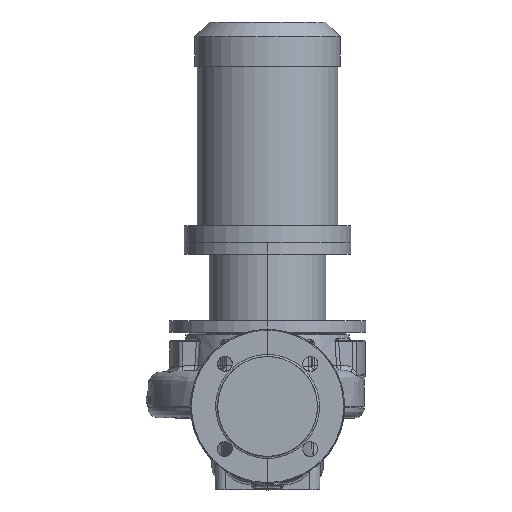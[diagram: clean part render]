
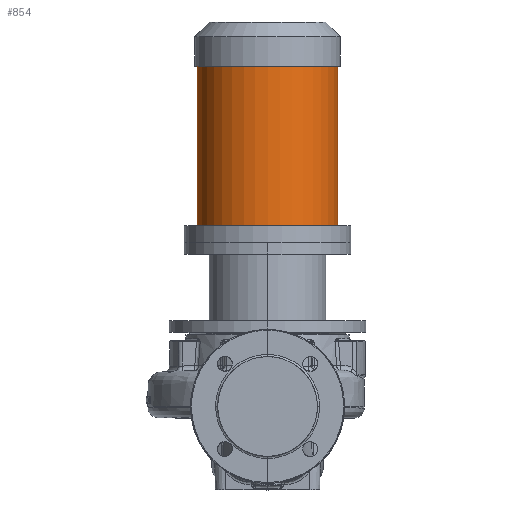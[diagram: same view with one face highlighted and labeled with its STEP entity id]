
A CAD part, top view. The second image highlights one B-rep face of the part: STEP entity #854.
In plain terms, the highlighted cylindrical face has radius 84.5 mm (diameter 169 mm), a partial arc.
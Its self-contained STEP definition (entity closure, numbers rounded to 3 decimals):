
#854 = ADVANCED_FACE ( 'NONE', ( #2047 ), #25143, .T. ) ;
#2047 = FACE_OUTER_BOUND ( 'NONE', #40838, .T. ) ;
#6619 = DIRECTION ( 'NONE',  ( 0., -1., 0. ) ) ;
#6763 = DIRECTION ( 'NONE',  ( 0., -1., 0. ) ) ;
#6921 = AXIS2_PLACEMENT_3D ( 'NONE', #41135, #57907, #52379 ) ;
#7737 = AXIS2_PLACEMENT_3D ( 'NONE', #56578, #6619, #23770 ) ;
#9820 = EDGE_CURVE ( 'NONE', #14955, #54562, #60122, .T. ) ;
#10012 = ORIENTED_EDGE ( 'NONE', *, *, #20177, .F. ) ;
#14270 = CARTESIAN_POINT ( 'NONE',  ( -84.5, 409.3, 0. ) ) ;
#14955 = VERTEX_POINT ( 'NONE', #43090 ) ;
#18661 = ORIENTED_EDGE ( 'NONE', *, *, #49233, .F. ) ;
#18721 = CARTESIAN_POINT ( 'NONE',  ( 84.5, 217.3, 0. ) ) ;
#20177 = EDGE_CURVE ( 'NONE', #36780, #45718, #69972, .T. ) ;
#20267 = LINE ( 'NONE', #22513, #54513 ) ;
#22513 = CARTESIAN_POINT ( 'NONE',  ( 84.5, 197.3, 0. ) ) ;
#23770 = DIRECTION ( 'NONE',  ( -1., 0., 0. ) ) ;
#25143 = CYLINDRICAL_SURFACE ( 'NONE', #6921, 84.5 ) ;
#25779 = LINE ( 'NONE', #60567, #29239 ) ;
#25796 = ORIENTED_EDGE ( 'NONE', *, *, #69142, .T. ) ;
#29239 = VECTOR ( 'NONE', #6763, 1000. ) ;
#34374 = CARTESIAN_POINT ( 'NONE',  ( 0., 409.3, 0. ) ) ;
#35285 = AXIS2_PLACEMENT_3D ( 'NONE', #34374, #55680, #39876 ) ;
#36780 = VERTEX_POINT ( 'NONE', #18721 ) ;
#39876 = DIRECTION ( 'NONE',  ( -1., 0., 0. ) ) ;
#40838 = EDGE_LOOP ( 'NONE', ( #18661, #54502, #25796, #10012 ) ) ;
#41135 = CARTESIAN_POINT ( 'NONE',  ( 0., 197.3, 0. ) ) ;
#43090 = CARTESIAN_POINT ( 'NONE',  ( 84.5, 409.3, 0. ) ) ;
#45718 = VERTEX_POINT ( 'NONE', #48209 ) ;
#48209 = CARTESIAN_POINT ( 'NONE',  ( -84.5, 217.3, 0. ) ) ;
#49233 = EDGE_CURVE ( 'NONE', #14955, #36780, #20267, .T. ) ;
#52379 = DIRECTION ( 'NONE',  ( -1., 0., 0. ) ) ;
#54502 = ORIENTED_EDGE ( 'NONE', *, *, #9820, .T. ) ;
#54513 = VECTOR ( 'NONE', #66317, 1000. ) ;
#54562 = VERTEX_POINT ( 'NONE', #14270 ) ;
#55680 = DIRECTION ( 'NONE',  ( 0., -1., 0. ) ) ;
#56578 = CARTESIAN_POINT ( 'NONE',  ( 0., 217.3, 0. ) ) ;
#57907 = DIRECTION ( 'NONE',  ( 0., -1., 0. ) ) ;
#60122 = CIRCLE ( 'NONE', #35285, 84.5 ) ;
#60567 = CARTESIAN_POINT ( 'NONE',  ( -84.5, 197.3, 0. ) ) ;
#66317 = DIRECTION ( 'NONE',  ( 0., -1., 0. ) ) ;
#69142 = EDGE_CURVE ( 'NONE', #54562, #45718, #25779, .T. ) ;
#69972 = CIRCLE ( 'NONE', #7737, 84.5 ) ;
